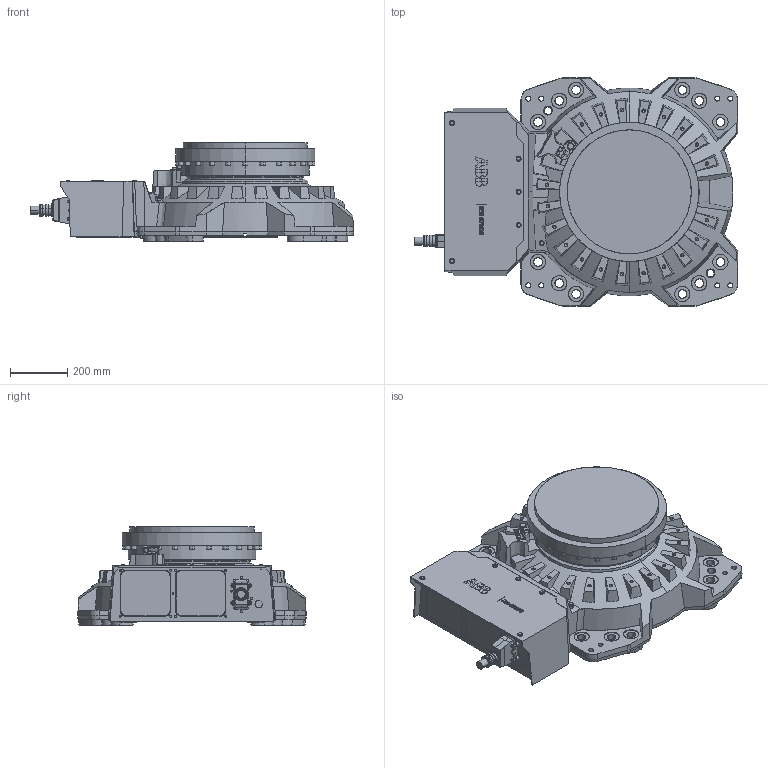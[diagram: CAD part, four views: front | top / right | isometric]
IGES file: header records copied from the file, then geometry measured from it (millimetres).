
Start section: SolidWorks IGES file using analytic representation for surfaces
Global section: file name: C:\Data\SAP_DOC\IRB6740_lightweight\6750S\IRB 6750S ASM\IRB6750S-LID-MH_220kg-360_OC_01_SW_J\IRB6750S-LID-MH_220kg-360_OC_01_IGES_J\IRB6750S_All_OC_00_BASE_CAD.igs; native system: SolidWorks 2024; preprocessor: SolidWorks 2024; author: SEJAOLS6; date: 260513.073252; units: millimetre
Bounding box: 1124.5 x 795 x 342 mm (x, y, z)
Surface area: 2964115.3 mm2 (no closed solid volume)
Topology: 0 solids, 0 shells, 1392 faces, 20699 edges, 20655 vertices
Faces by surface type: bspline 747, revolution 645
